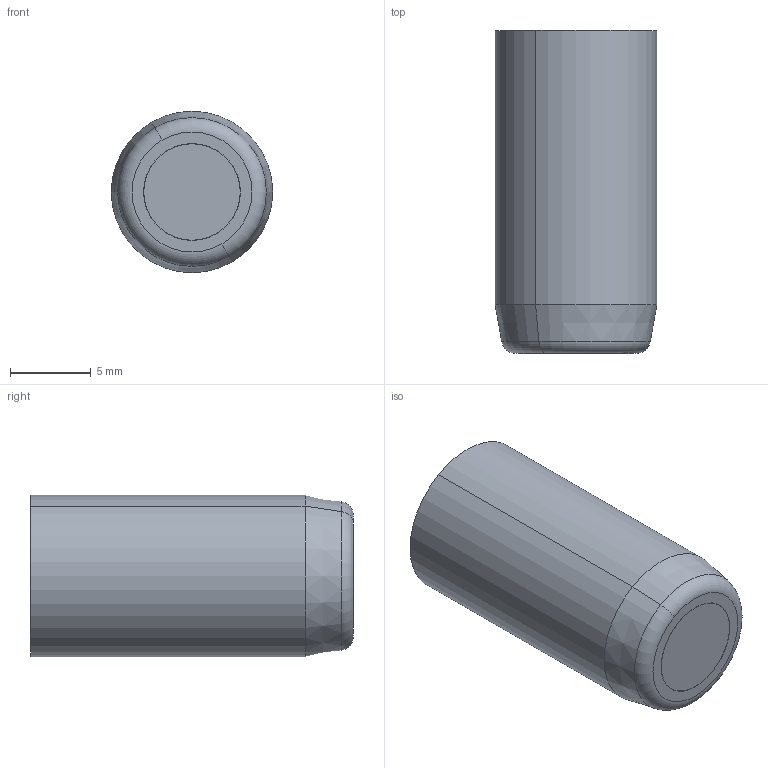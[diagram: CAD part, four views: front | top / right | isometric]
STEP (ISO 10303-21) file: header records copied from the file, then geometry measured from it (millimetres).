
FILE_DESCRIPTION (( 'STEP AP214' ), '1' );
FILE_NAME ('FA 105706-20.STEP', '2013-10-01T09:30:14', ( '' ), ( '' ), 'SwSTEP 2.0', 'SolidWorks 2011', '' );
FILE_SCHEMA (( 'AUTOMOTIVE_DESIGN' ));
Length unit declared in the file: millimetre
Products named in the file (6): FA 105706-20; IA 5717SF; FA 105706-20-1; FA 105700-3; FA 084700-2 comprimido; FA 105700-1
Assembly tree (5 placements, depth 2):
  FA 105706-20
    FA 084700-2 comprimido
    IA 5717SF
    FA 105700-1
    FA 105700-3
    FA 105706-20-1
Bounding box: 10 x 20 x 10 mm (x, y, z)
Volume: 1394.3 mm3; surface area: 1740.3 mm2
Topology: 5 solids, 5 shells, 280 faces, 713 edges, 462 vertices
Faces by surface type: plane 128, cylinder 112, cone 24, torus 12, bspline 2, sphere 2
Entity records: 10171 total; most frequent: CARTESIAN_POINT 2931, DIRECTION 1523, ORIENTED_EDGE 1422, EDGE_CURVE 711, AXIS2_PLACEMENT_3D 562, VERTEX_POINT 462, LINE 399, VECTOR 399
